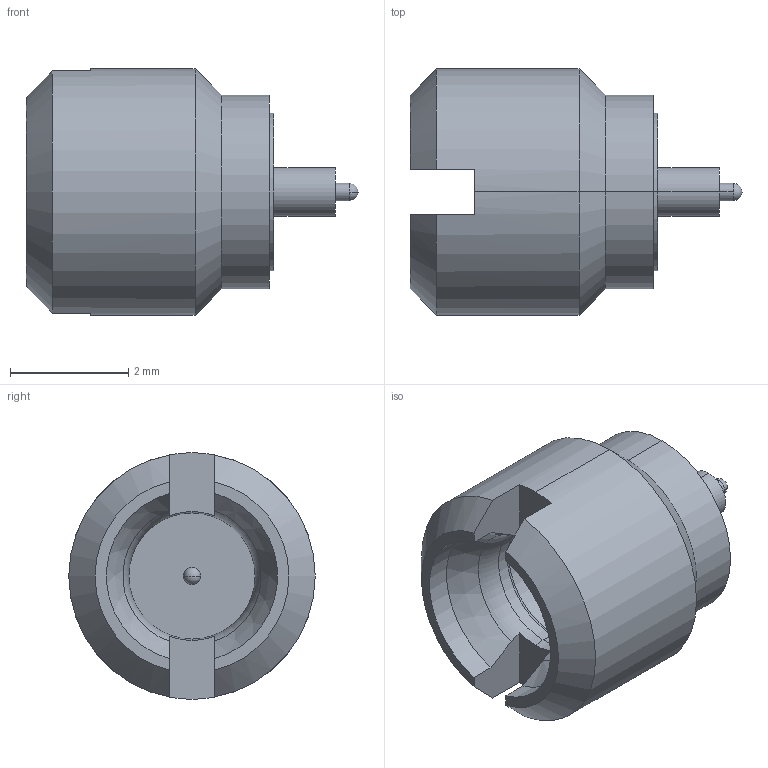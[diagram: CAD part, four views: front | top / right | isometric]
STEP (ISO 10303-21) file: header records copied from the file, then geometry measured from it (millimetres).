
FILE_DESCRIPTION (( 'STEP AP214' ), '1' );
FILE_NAME ('SF3211-60009.STEP', '2016-05-02T20:47:13', ( '' ), ( '' ), 'SwSTEP 2.0', 'SolidWorks 2015', '' );
FILE_SCHEMA (( 'AUTOMOTIVE_DESIGN' ));
Length unit declared in the file: inch
Products named in the file (1): SF3211-60009
Bounding box: 5.61 x 4.17 x 4.17 mm (x, y, z)
Volume: 39.5 mm3; surface area: 90.5 mm2
Topology: 1 solids, 1 shells, 44 faces, 110 edges, 68 vertices
Faces by surface type: cylinder 18, plane 12, cone 8, sphere 4, torus 2
Entity records: 1936 total; most frequent: CARTESIAN_POINT 263, DIRECTION 242, ORIENTED_EDGE 212, EDGE_CURVE 106, AXIS2_PLACEMENT_3D 103, VERTEX_POINT 68, CIRCLE 58, EDGE_LOOP 48
